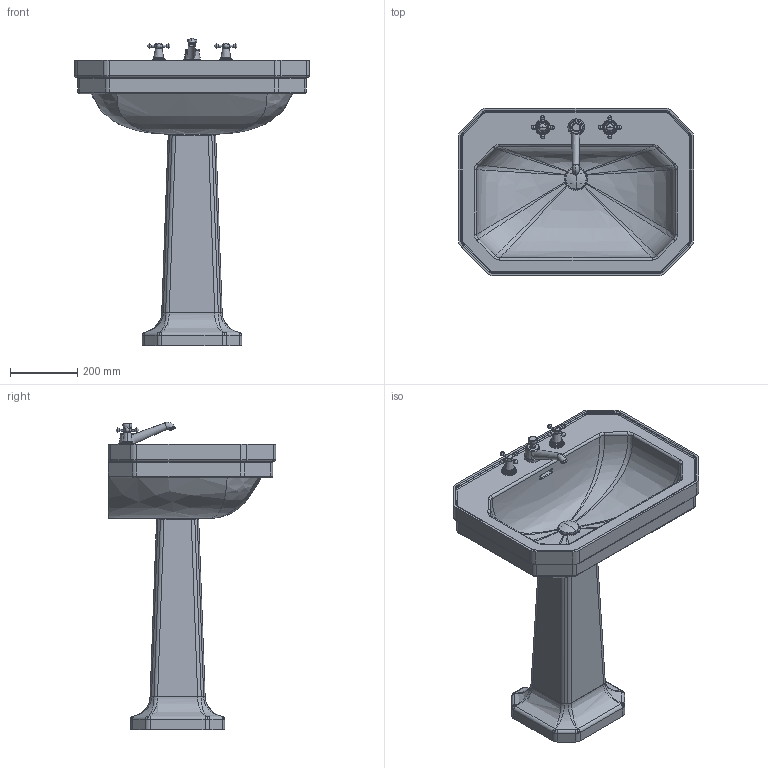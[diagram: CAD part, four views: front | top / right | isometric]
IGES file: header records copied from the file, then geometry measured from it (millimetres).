
Global section: file name: No Iges File Name specified; native system: AutoDesk Inventor R11.0; preprocessor: AutoDesk Inventor Iges Exporter R11.0; author: No Author specified; organization: No Organization specified; date: 20080103.111947; units: millimetre
Bounding box: 700 x 500 x 915.46 mm (x, y, z)
Volume: 30735783.9 mm3; surface area: 1997765.7 mm2
Topology: 18 solids, 18 shells, 552 faces, 1312 edges, 773 vertices
Faces by surface type: plane 135, bspline 129, cylinder 126, torus 66, revolution 62, sphere 18, cone 16
